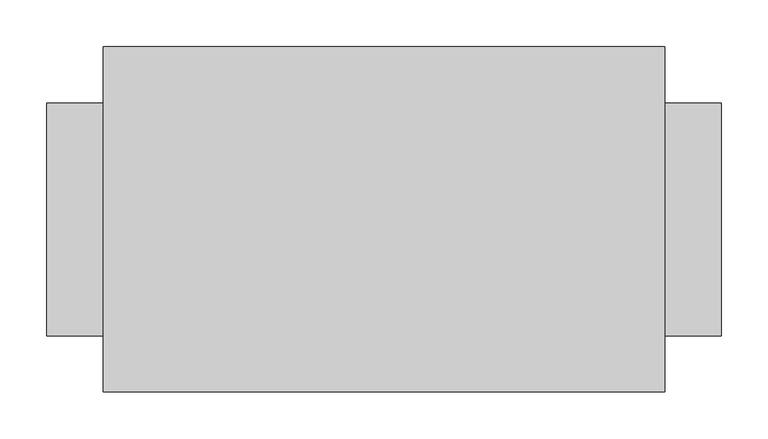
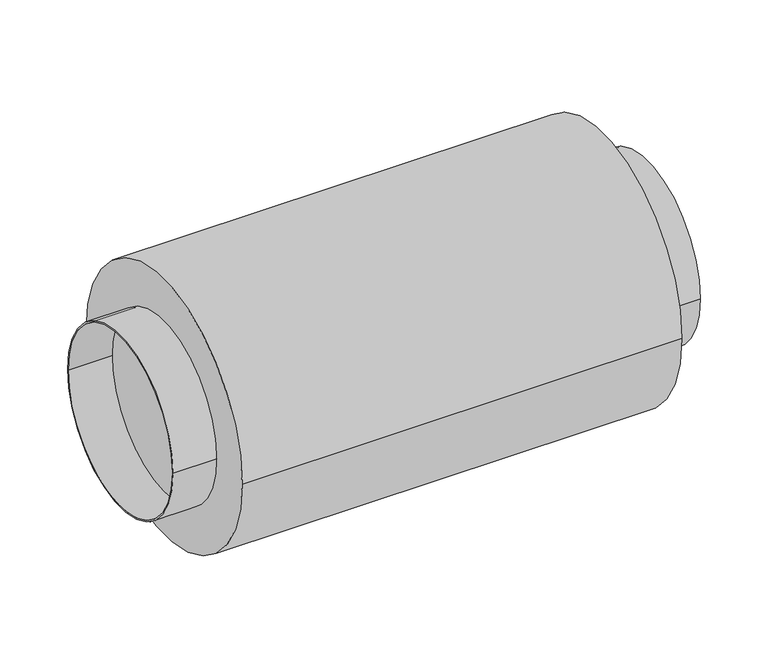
"""IFC4 building model written with IfcOpenShell, lengths in millimetres: damper geometry, СВ_Шумоглушитель_КанальныйКруглый_DN100-315_SHK : SHK-250/600."""

from ifc_helpers import new_model, si_unit, point, frame, origin, origin_2d, place, context, project, spatial, circle_curve, trimmed, segment, composite_curve, outline, extrude, source, transform, mapped, element, save


def damper_a21b50f8(model_context):
    return source(origin(), model_context, "Body", "SweptSolid", [
        extrude(outline(composite_curve([segment(trimmed(circle_curve(origin_2d(), 184.5), [point((-184.5, 0.0))], [point((184.5, 0.0))], False, "CARTESIAN"), True, "CONTINUOUS"), segment(trimmed(circle_curve(origin_2d(), 184.5), [point((184.5, 0.0))], [point((-184.5, 0.0))], False, "CARTESIAN"), True, "CONTINUOUS")], self_intersect=False)), frame((-300.0, 0.0, 0.0), z_axis=(1.0, 0.0, 0.0), x_axis=(0.0, 1.0, 0.0)), (0.0, 0.0, 1.0), 600.0),
        extrude(outline(composite_curve([segment(trimmed(circle_curve(origin_2d(), 124.5), [point((-124.5, 0.0))], [point((124.5, 0.0))], False, "CARTESIAN"), True, "CONTINUOUS"), segment(trimmed(circle_curve(origin_2d(), 124.5), [point((124.5, 0.0))], [point((-124.5, 0.0))], False, "CARTESIAN"), True, "CONTINUOUS")], self_intersect=False), holes=[composite_curve([segment(trimmed(circle_curve(origin_2d(), 122.5), [point((-122.5, 0.0))], [point((122.5, 0.0))], True, "CARTESIAN"), True, "CONTINUOUS"), segment(trimmed(circle_curve(origin_2d(), 122.5), [point((122.5, 0.0))], [point((-122.5, 0.0))], True, "CARTESIAN"), True, "CONTINUOUS")], self_intersect=False)]), frame((-360.0, 0.0, 0.0), z_axis=(1.0, 0.0, 0.0), x_axis=(0.0, 1.0, 0.0)), (0.0, 0.0, 1.0), 60.0),
        extrude(outline(composite_curve([segment(trimmed(circle_curve(origin_2d(), 124.5), [point((-124.5, 0.0))], [point((124.5, 0.0))], False, "CARTESIAN"), True, "CONTINUOUS"), segment(trimmed(circle_curve(origin_2d(), 124.5), [point((124.5, 0.0))], [point((-124.5, 0.0))], False, "CARTESIAN"), True, "CONTINUOUS")], self_intersect=False), holes=[composite_curve([segment(trimmed(circle_curve(origin_2d(), 122.5), [point((-122.5, 0.0))], [point((122.5, 0.0))], True, "CARTESIAN"), True, "CONTINUOUS"), segment(trimmed(circle_curve(origin_2d(), 122.5), [point((122.5, 0.0))], [point((-122.5, 0.0))], True, "CARTESIAN"), True, "CONTINUOUS")], self_intersect=False)]), frame((300.0, 0.0, 0.0), z_axis=(1.0, 0.0, 0.0), x_axis=(0.0, 1.0, 0.0)), (0.0, 0.0, 1.0), 60.0),
    ])


if __name__ == "__main__":
    model = new_model("IFC4")
    model_context = context("Model", 3, world=origin())
    ifc_project = project(units=[si_unit("LENGTHUNIT", "METRE", prefix="MILLI")], contexts=[model_context])
    site = spatial("IfcSite", under=ifc_project)
    building = spatial("IfcBuilding", under=site)
    placement = place(None, origin())
    damper_shape = damper_a21b50f8(model_context)
    element("IfcDamper", 1, ObjectType="СВ_Шумоглушитель_КанальныйКруглый_DN100-315_SHK : SHK-250/600", at=placement, inside=building, context=model_context, shape_type="MappedRepresentation", body=[
        mapped(damper_shape, transform((0.0, 0.0, 0.0), x_axis=(1.0, 0.0, 0.0), y_axis=(0.0, 1.0, 0.0), z_axis=(0.0, 0.0, 1.0))),
    ])
    save(model, "model.ifc")
